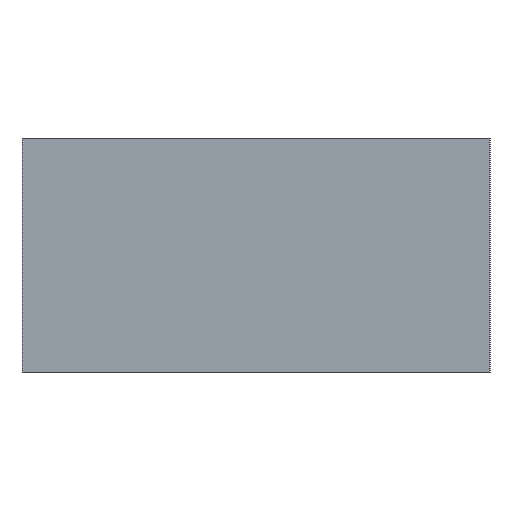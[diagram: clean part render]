
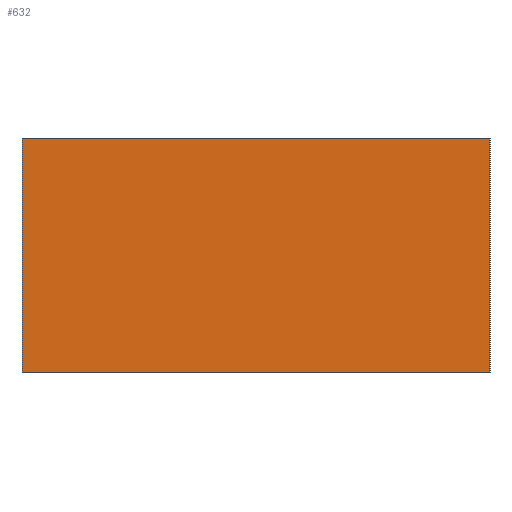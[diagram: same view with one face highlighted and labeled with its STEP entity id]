
A CAD part, left-side view. The second image highlights one B-rep face of the part: STEP entity #632.
In plain terms, the highlighted planar face has unit normal (-1, 0, 0).
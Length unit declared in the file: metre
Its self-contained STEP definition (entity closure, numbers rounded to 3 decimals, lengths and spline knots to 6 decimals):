
#104=ORIENTED_EDGE('',*,*,#239,.T.);
#105=ORIENTED_EDGE('',*,*,#240,.F.);
#106=ORIENTED_EDGE('',*,*,#241,.F.);
#107=ORIENTED_EDGE('',*,*,#237,.T.);
#237=EDGE_CURVE('',#305,#304,#369,.T.);
#239=EDGE_CURVE('',#304,#306,#371,.T.);
#240=EDGE_CURVE('',#307,#306,#372,.T.);
#241=EDGE_CURVE('',#305,#307,#373,.T.);
#304=VERTEX_POINT('',#973);
#305=VERTEX_POINT('',#975);
#306=VERTEX_POINT('',#979);
#307=VERTEX_POINT('',#981);
#369=LINE('',#974,#381);
#371=LINE('',#978,#383);
#372=LINE('',#980,#384);
#373=LINE('',#982,#385);
#381=VECTOR('',#778,1.);
#383=VECTOR('',#782,1.);
#384=VECTOR('',#783,1.);
#385=VECTOR('',#784,1.);
#390=EDGE_LOOP('',(#104,#105,#106,#107));
#508=FACE_BOUND('',#390,.T.);
#626=PLANE('',#679);
#632=ADVANCED_FACE('',(#508),#626,.F.);
#679=AXIS2_PLACEMENT_3D('',#977,#780,#781);
#778=DIRECTION('',(0.,0.,-1.));
#780=DIRECTION('',(1.,0.,0.));
#781=DIRECTION('',(0.,0.,-1.));
#782=DIRECTION('',(0.,-1.,0.));
#783=DIRECTION('',(0.,0.,-1.));
#784=DIRECTION('',(0.,-1.,0.));
#973=CARTESIAN_POINT('',(-2.75,1.25,0.));
#974=CARTESIAN_POINT('',(-2.75,1.25,1.25));
#975=CARTESIAN_POINT('',(-2.75,1.25,1.25));
#977=CARTESIAN_POINT('',(-2.75,0.,1.25));
#978=CARTESIAN_POINT('',(-2.75,0.,0.));
#979=CARTESIAN_POINT('',(-2.75,-1.25,0.));
#980=CARTESIAN_POINT('',(-2.75,-1.25,1.25));
#981=CARTESIAN_POINT('',(-2.75,-1.25,1.25));
#982=CARTESIAN_POINT('',(-2.75,0.,1.25));
